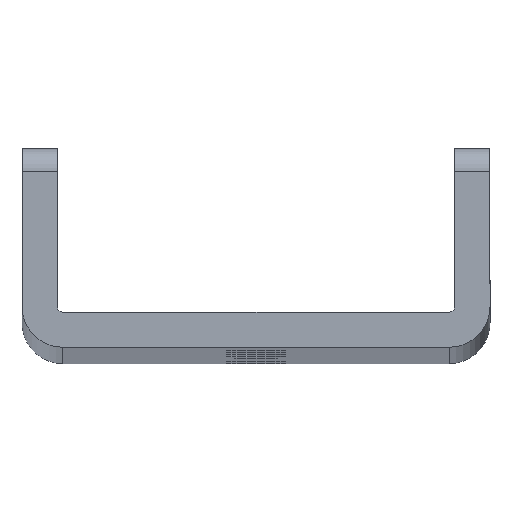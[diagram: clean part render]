
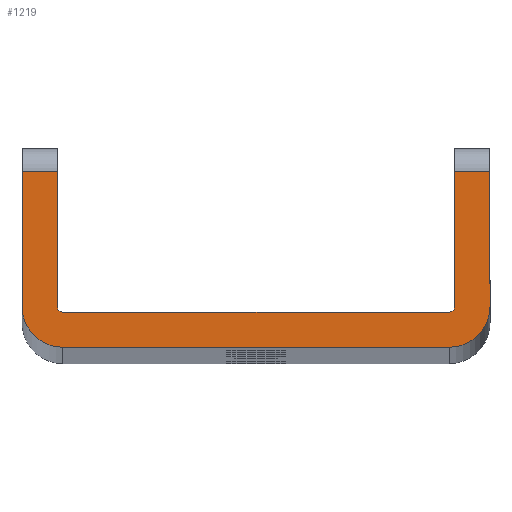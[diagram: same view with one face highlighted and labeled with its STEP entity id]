
A CAD part, top view. The second image highlights one B-rep face of the part: STEP entity #1219.
In plain terms, the highlighted planar face has unit normal (0, 0, 1).
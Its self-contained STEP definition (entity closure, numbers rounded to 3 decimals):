
#6 = CARTESIAN_POINT ( 'NONE',  ( -20., 15., 800. ) ) ;
#8 = EDGE_CURVE ( 'NONE', #935, #1221, #753, .T. ) ;
#28 = VERTEX_POINT ( 'NONE', #337 ) ;
#95 = CARTESIAN_POINT ( 'NONE',  ( 20., 15., 800. ) ) ;
#115 = LINE ( 'NONE', #1649, #1995 ) ;
#123 = CARTESIAN_POINT ( 'NONE',  ( 17., 15., 800. ) ) ;
#250 = EDGE_CURVE ( 'NONE', #789, #3199, #3376, .T. ) ;
#266 = VERTEX_POINT ( 'NONE', #3309 ) ;
#337 = CARTESIAN_POINT ( 'NONE',  ( 20., 3.5, 800. ) ) ;
#374 = DIRECTION ( 'NONE',  ( 1., 0., 0. ) ) ;
#424 = EDGE_CURVE ( 'NONE', #547, #935, #483, .T. ) ;
#483 = LINE ( 'NONE', #2339, #1011 ) ;
#534 = CARTESIAN_POINT ( 'NONE',  ( 16.5, 3., 800. ) ) ;
#547 = VERTEX_POINT ( 'NONE', #1931 ) ;
#561 = VERTEX_POINT ( 'NONE', #2003 ) ;
#614 = DIRECTION ( 'NONE',  ( 0., 0., -1. ) ) ;
#615 = VERTEX_POINT ( 'NONE', #2772 ) ;
#664 = ORIENTED_EDGE ( 'NONE', *, *, #1413, .T. ) ;
#672 = EDGE_CURVE ( 'NONE', #266, #547, #1812, .T. ) ;
#693 = CARTESIAN_POINT ( 'NONE',  ( -16.5, 3.5, 800. ) ) ;
#753 = LINE ( 'NONE', #3173, #2489 ) ;
#775 = DIRECTION ( 'NONE',  ( 0., 1., 0. ) ) ;
#789 = VERTEX_POINT ( 'NONE', #534 ) ;
#816 = DIRECTION ( 'NONE',  ( 0., 0., -1. ) ) ;
#822 = ORIENTED_EDGE ( 'NONE', *, *, #2509, .T. ) ;
#841 = VERTEX_POINT ( 'NONE', #2437 ) ;
#849 = LINE ( 'NONE', #1141, #1394 ) ;
#853 = ORIENTED_EDGE ( 'NONE', *, *, #1115, .T. ) ;
#857 = AXIS2_PLACEMENT_3D ( 'NONE', #693, #3317, #2515 ) ;
#880 = DIRECTION ( 'NONE',  ( 1., 0., 0. ) ) ;
#906 = LINE ( 'NONE', #123, #1607 ) ;
#916 = AXIS2_PLACEMENT_3D ( 'NONE', #3138, #1351, #3196 ) ;
#935 = VERTEX_POINT ( 'NONE', #6 ) ;
#980 = ORIENTED_EDGE ( 'NONE', *, *, #424, .T. ) ;
#1011 = VECTOR ( 'NONE', #3188, 1000. ) ;
#1016 = CIRCLE ( 'NONE', #1285, 0.5 ) ;
#1115 = EDGE_CURVE ( 'NONE', #1221, #841, #1804, .T. ) ;
#1129 = AXIS2_PLACEMENT_3D ( 'NONE', #1935, #1916, #374 ) ;
#1141 = CARTESIAN_POINT ( 'NONE',  ( 16.5, 0., 800. ) ) ;
#1168 = VERTEX_POINT ( 'NONE', #95 ) ;
#1219 = ADVANCED_FACE ( 'NONE', ( #1440 ), #2497, .T. ) ;
#1221 = VERTEX_POINT ( 'NONE', #2288 ) ;
#1285 = AXIS2_PLACEMENT_3D ( 'NONE', #2921, #816, #1585 ) ;
#1330 = ORIENTED_EDGE ( 'NONE', *, *, #3020, .T. ) ;
#1351 = DIRECTION ( 'NONE',  ( 0., 0., 1. ) ) ;
#1388 = AXIS2_PLACEMENT_3D ( 'NONE', #1578, #614, #880 ) ;
#1394 = VECTOR ( 'NONE', #2697, 1000. ) ;
#1413 = EDGE_CURVE ( 'NONE', #3199, #266, #1016, .T. ) ;
#1426 = EDGE_CURVE ( 'NONE', #561, #28, #2274, .T. ) ;
#1440 = FACE_OUTER_BOUND ( 'NONE', #2391, .T. ) ;
#1459 = ORIENTED_EDGE ( 'NONE', *, *, #2631, .T. ) ;
#1578 = CARTESIAN_POINT ( 'NONE',  ( 16.5, 3.5, 800. ) ) ;
#1585 = DIRECTION ( 'NONE',  ( 1., 0., 0. ) ) ;
#1607 = VECTOR ( 'NONE', #2982, 1000. ) ;
#1622 = EDGE_CURVE ( 'NONE', #1794, #615, #115, .T. ) ;
#1649 = CARTESIAN_POINT ( 'NONE',  ( 17., 3.5, 800. ) ) ;
#1675 = DIRECTION ( 'NONE',  ( 0., -1., 0. ) ) ;
#1748 = CIRCLE ( 'NONE', #1388, 0.5 ) ;
#1785 = CARTESIAN_POINT ( 'NONE',  ( 20., 17., 800. ) ) ;
#1794 = VERTEX_POINT ( 'NONE', #2178 ) ;
#1804 = CIRCLE ( 'NONE', #1129, 3.5 ) ;
#1810 = LINE ( 'NONE', #1785, #1930 ) ;
#1812 = LINE ( 'NONE', #2298, #3167 ) ;
#1821 = ORIENTED_EDGE ( 'NONE', *, *, #672, .T. ) ;
#1916 = DIRECTION ( 'NONE',  ( 0., 0., 1. ) ) ;
#1925 = VECTOR ( 'NONE', #2764, 1000. ) ;
#1930 = VECTOR ( 'NONE', #775, 1000. ) ;
#1931 = CARTESIAN_POINT ( 'NONE',  ( -17., 15., 800. ) ) ;
#1935 = CARTESIAN_POINT ( 'NONE',  ( -16.5, 3.5, 800. ) ) ;
#1995 = VECTOR ( 'NONE', #1675, 1000. ) ;
#2003 = CARTESIAN_POINT ( 'NONE',  ( 16.5, 0., 800. ) ) ;
#2178 = CARTESIAN_POINT ( 'NONE',  ( 17., 15., 800. ) ) ;
#2274 = CIRCLE ( 'NONE', #916, 3.5 ) ;
#2288 = CARTESIAN_POINT ( 'NONE',  ( -20., 3.5, 800. ) ) ;
#2292 = CARTESIAN_POINT ( 'NONE',  ( -16.5, 3., 800. ) ) ;
#2298 = CARTESIAN_POINT ( 'NONE',  ( -17., 17., 800. ) ) ;
#2299 = EDGE_CURVE ( 'NONE', #28, #1168, #1810, .T. ) ;
#2339 = CARTESIAN_POINT ( 'NONE',  ( -20., 15., 800. ) ) ;
#2350 = DIRECTION ( 'NONE',  ( 0., 1., 0. ) ) ;
#2355 = ORIENTED_EDGE ( 'NONE', *, *, #250, .T. ) ;
#2357 = ORIENTED_EDGE ( 'NONE', *, *, #8, .T. ) ;
#2391 = EDGE_LOOP ( 'NONE', ( #2840, #1330, #2838, #822, #2355, #664, #1821, #980, #2357, #853, #1459, #2865 ) ) ;
#2437 = CARTESIAN_POINT ( 'NONE',  ( -16.5, 0., 800. ) ) ;
#2489 = VECTOR ( 'NONE', #2648, 1000. ) ;
#2497 = PLANE ( 'NONE',  #857 ) ;
#2509 = EDGE_CURVE ( 'NONE', #615, #789, #1748, .T. ) ;
#2515 = DIRECTION ( 'NONE',  ( 1., 0., 0. ) ) ;
#2631 = EDGE_CURVE ( 'NONE', #841, #561, #849, .T. ) ;
#2648 = DIRECTION ( 'NONE',  ( 0., -1., 0. ) ) ;
#2697 = DIRECTION ( 'NONE',  ( 1., 0., 0. ) ) ;
#2764 = DIRECTION ( 'NONE',  ( -1., 0., 0. ) ) ;
#2772 = CARTESIAN_POINT ( 'NONE',  ( 17., 3.5, 800. ) ) ;
#2838 = ORIENTED_EDGE ( 'NONE', *, *, #1622, .T. ) ;
#2840 = ORIENTED_EDGE ( 'NONE', *, *, #2299, .T. ) ;
#2865 = ORIENTED_EDGE ( 'NONE', *, *, #1426, .T. ) ;
#2921 = CARTESIAN_POINT ( 'NONE',  ( -16.5, 3.5, 800. ) ) ;
#2982 = DIRECTION ( 'NONE',  ( -1., 0., 0. ) ) ;
#3020 = EDGE_CURVE ( 'NONE', #1168, #1794, #906, .T. ) ;
#3138 = CARTESIAN_POINT ( 'NONE',  ( 16.5, 3.5, 800. ) ) ;
#3167 = VECTOR ( 'NONE', #2350, 1000. ) ;
#3173 = CARTESIAN_POINT ( 'NONE',  ( -20., 3.5, 800. ) ) ;
#3188 = DIRECTION ( 'NONE',  ( -1., 0., 0. ) ) ;
#3196 = DIRECTION ( 'NONE',  ( -1., 0., 0. ) ) ;
#3199 = VERTEX_POINT ( 'NONE', #3264 ) ;
#3264 = CARTESIAN_POINT ( 'NONE',  ( -16.5, 3., 800. ) ) ;
#3309 = CARTESIAN_POINT ( 'NONE',  ( -17., 3.5, 800. ) ) ;
#3317 = DIRECTION ( 'NONE',  ( 0., 0., 1. ) ) ;
#3376 = LINE ( 'NONE', #2292, #1925 ) ;
